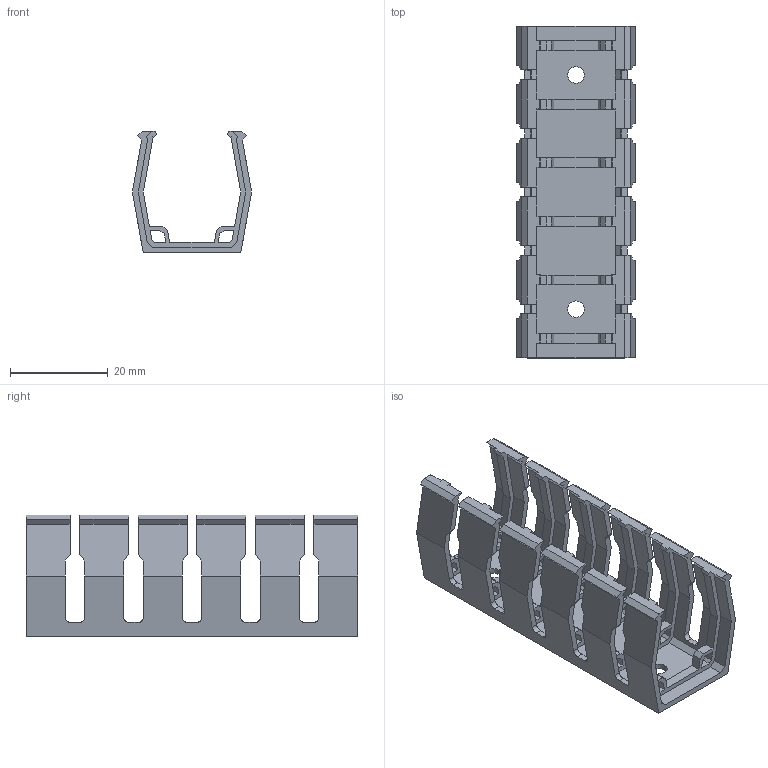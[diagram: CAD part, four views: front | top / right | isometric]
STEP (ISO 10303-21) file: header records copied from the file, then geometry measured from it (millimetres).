
FILE_DESCRIPTION(('Open CASCADE Model'),'2;1');
FILE_NAME('Open CASCADE Shape Model','2026-09-17T12:46:33',('Author'),( 'Open CASCADE'),'Open CASCADE STEP processor 7.9','build123d', 'Unknown');
FILE_SCHEMA(('AUTOMOTIVE_DESIGN { 1 0 10303 214 1 1 1 1 }'));
Length unit declared in the file: millimetre
Products named in the file (1): SOLID
Bounding box: 24.41 x 68 x 25 mm (x, y, z)
Volume: 5776.8 mm3; surface area: 10084.3 mm2
Topology: 1 solids, 1 shells, 438 faces, 1308 edges, 872 vertices
Faces by surface type: plane 416, cylinder 22
Full cylindrical faces by diameter (mm): 3.4 x2
Entity records: 32478 total; most frequent: CARTESIAN_POINT 6339, DIRECTION 4782, LINE 3796, VECTOR 3796, ORIENTED_EDGE 2616, PCURVE 2616, DEFINITIONAL_REPRESENTATION 2616, EDGE_CURVE 1308
